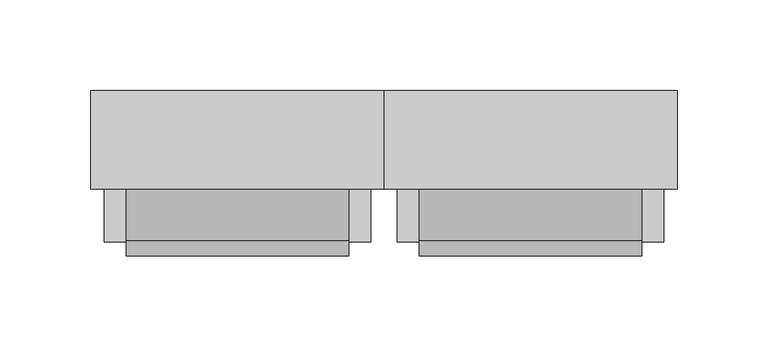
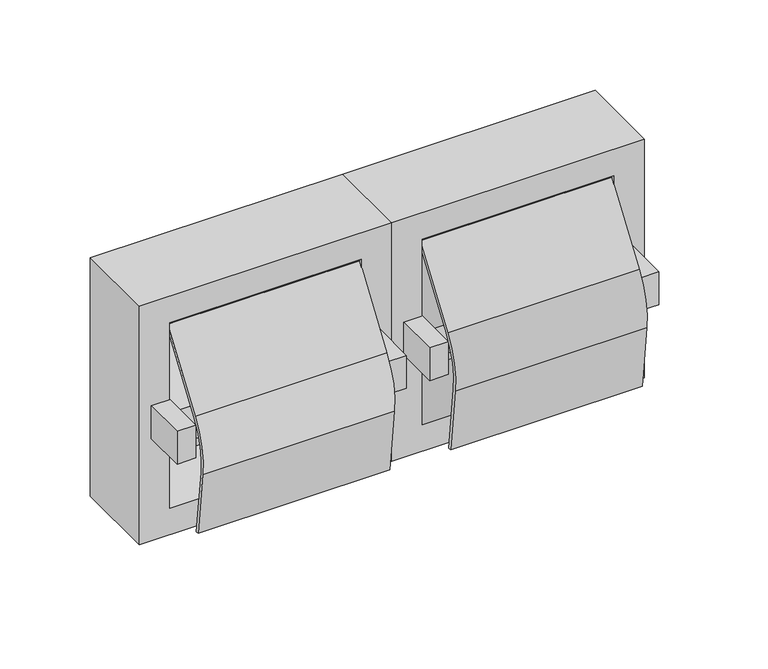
"""IFC4 building model written with IfcOpenShell, lengths in millimetres: proxy geometry, Toilet Roll Dispenser_Metlam_Double_Surface Mounted_Hooded : 322w x 91d x 161h (ML263SM_S)."""

import ifcopenshell
import ifcopenshell.guid

model = None  # the IFC model being written
_history = None  # IfcOwnerHistory: only IFC2X3 demands one
_inside = {}  # id of a spatial element -> (the spatial element, [elements in it])
_under = {}  # id of a project, library or spatial element -> (it, [spatial elements below it])
_declared = {}  # id of a project -> (the project, [libraries it declares])
_typed = {}  # id of a type object -> (the type object, [elements of that type])
_made_of = {}  # id of a material, layer set ... -> (it, [elements and type objects made of it])


def new_model(schema):
    """Start an empty IFC model of exactly this schema.

    Asked for "IFC4X3", IfcOpenShell would pick the latest addendum, in which some entities
    have other attributes; the version numbers below select the first issue.
    IFC2X3 requires an IfcOwnerHistory on every rooted entity: one is made here for all.
    """
    global model, _history
    if schema == "IFC4X3":
        model = ifcopenshell.file(schema_version=(4, 3, 0, 0))
    else:
        model = ifcopenshell.file(schema=schema)
    _inside.clear()
    _under.clear()
    _declared.clear()
    _typed.clear()
    _made_of.clear()
    _history = None
    if model.schema == "IFC2X3":
        org = make("IfcOrganization", Name="unknown")
        user = make(
            "IfcPersonAndOrganization",
            ThePerson=make("IfcPerson", FamilyName="unknown"),
            TheOrganization=org,
        )
        app = make(
            "IfcApplication",
            ApplicationDeveloper=org,
            Version="unknown",
            ApplicationFullName="unknown",
            ApplicationIdentifier="unknown",
        )
        _history = make(
            "IfcOwnerHistory",
            OwningUser=user,
            OwningApplication=app,
            ChangeAction="ADDED",
            CreationDate=0,
        )
    return model


def make(cls, **values):
    """One entity of the class cls with the attributes given. An attribute that is None is left unset."""
    return model.create_entity(
        cls, **{name: value for name, value in values.items() if value is not None}
    )


def rooted(cls, **values):
    """An entity with a GlobalId (a new one), such as an element, a storey or a relation."""
    return make(cls, GlobalId=ifcopenshell.guid.new(), OwnerHistory=_history, **values)


def si_unit(unit_type, name, prefix=None):
    """IfcSIUnit, for example si_unit("LENGTHUNIT", "METRE", prefix="MILLI")."""
    return make("IfcSIUnit", UnitType=unit_type, Prefix=prefix, Name=name)


def assignment(units):
    """IfcUnitAssignment: the units of a project."""
    return None if units is None else make("IfcUnitAssignment", Units=units)


def point(xyz):
    """IfcCartesianPoint."""
    return None if xyz is None else make("IfcCartesianPoint", Coordinates=xyz)


def direction(xyz):
    """IfcDirection."""
    return None if xyz is None else make("IfcDirection", DirectionRatios=xyz)


def frame(location, z_axis=None, x_axis=None):
    """IfcAxis2Placement3D, a coordinate frame: its origin and axes. An axis left out is left unset."""
    return make(
        "IfcAxis2Placement3D",
        Location=point(location),
        Axis=direction(z_axis),
        RefDirection=direction(x_axis),
    )


def frame_2d(location, x_axis=None):
    """IfcAxis2Placement2D, a coordinate frame in the plane: its origin and x axis."""
    return make(
        "IfcAxis2Placement2D", Location=point(location), RefDirection=direction(x_axis)
    )


def origin():
    """The frame at (0, 0, 0) with its axes left unset."""
    return frame((0.0, 0.0, 0.0))


def place(relative_to, where):
    """IfcLocalPlacement: puts the frame where relative to a parent placement (None: the world)."""
    return make(
        "IfcLocalPlacement", PlacementRelTo=relative_to, RelativePlacement=where
    )


def context(
    kind, dimensions, precision=None, world=None, true_north=None, identifier=None
):
    """IfcGeometricRepresentationContext, for example the 3D "Model" context."""
    return make(
        "IfcGeometricRepresentationContext",
        ContextIdentifier=identifier,
        ContextType=kind,
        CoordinateSpaceDimension=dimensions,
        Precision=precision,
        WorldCoordinateSystem=world,
        TrueNorth=true_north,
    )


def project(units=None, contexts=None):
    """IfcProject with its units and contexts."""
    return rooted(
        "IfcProject",
        Name="project",
        RepresentationContexts=contexts,
        UnitsInContext=assignment(units),
    )


def spatial(cls, under=None, at=None, **own):
    """A site, building, storey or space (cls), placed at a placement, below another one or the project."""
    s = rooted(cls, ObjectPlacement=at, **own)
    if under is not None:
        _under.setdefault(under.id(), (under, []))[1].append(s)
    return s


def polyline(points):
    """IfcPolyline through the points."""
    return make("IfcPolyline", Points=[point(p) for p in points])


def circle_curve(where, radius):
    """IfcCircle in the frame where."""
    return make("IfcCircle", Position=where, Radius=radius)


def trimmed(basis, trim1, trim2, sense, master):
    """IfcTrimmedCurve: the piece of a basis curve between two trims."""
    return make(
        "IfcTrimmedCurve",
        BasisCurve=basis,
        Trim1=trim1,
        Trim2=trim2,
        SenseAgreement=sense,
        MasterRepresentation=master,
    )


def segment(curve, same_sense, transition):
    """IfcCompositeCurveSegment."""
    return make(
        "IfcCompositeCurveSegment",
        Transition=transition,
        SameSense=same_sense,
        ParentCurve=curve,
    )


def composite_curve(segments, self_intersect=None):
    """IfcCompositeCurve: segments joined end to end."""
    return make("IfcCompositeCurve", Segments=segments, SelfIntersect=self_intersect)


def outline(outer, holes=None, kind="AREA"):
    """IfcArbitraryClosedProfileDef: a profile drawn as a closed curve; with holes, ...WithVoids."""
    if holes is None:
        return make("IfcArbitraryClosedProfileDef", ProfileType=kind, OuterCurve=outer)
    return make(
        "IfcArbitraryProfileDefWithVoids",
        ProfileType=kind,
        OuterCurve=outer,
        InnerCurves=holes,
    )


def extrude(swept, where, along, depth):
    """IfcExtrudedAreaSolid: the profile swept, set in the frame where, extruded along a direction by depth."""
    return make(
        "IfcExtrudedAreaSolid",
        SweptArea=swept,
        Position=where,
        ExtrudedDirection=direction(along),
        Depth=depth,
    )


def shape(context_of_items, identifier, shape_type, items):
    """IfcShapeRepresentation: the items that make up one representation, for example the "Body"."""
    return make(
        "IfcShapeRepresentation",
        ContextOfItems=context_of_items,
        RepresentationIdentifier=identifier,
        RepresentationType=shape_type,
        Items=items,
    )


def source(mapping_origin, context_of_items, identifier, shape_type, items):
    """IfcRepresentationMap: a shape defined once, which mapped items show again and again."""
    return make(
        "IfcRepresentationMap",
        MappingOrigin=mapping_origin,
        MappedRepresentation=shape(context_of_items, identifier, shape_type, items),
    )


def transform(
    local_origin,
    x_axis=None,
    y_axis=None,
    z_axis=None,
    scale=None,
    scale2=None,
    scale3=None,
    uniform=True,
):
    """IfcCartesianTransformationOperator3D, or its non-uniform kind. x_axis, y_axis, z_axis: its Axis1, 2, 3."""
    if uniform:
        return make(
            "IfcCartesianTransformationOperator3D",
            Axis1=direction(x_axis),
            Axis2=direction(y_axis),
            LocalOrigin=point(local_origin),
            Scale=scale,
            Axis3=direction(z_axis),
        )
    return make(
        "IfcCartesianTransformationOperator3DnonUniform",
        Axis1=direction(x_axis),
        Axis2=direction(y_axis),
        LocalOrigin=point(local_origin),
        Scale=scale,
        Axis3=direction(z_axis),
        Scale2=scale2,
        Scale3=scale3,
    )


def mapped(mapping_source, mapping_target):
    """IfcMappedItem: shows the shape of a source again, moved by a transform."""
    return make(
        "IfcMappedItem", MappingSource=mapping_source, MappingTarget=mapping_target
    )


def made_of(thing, what):
    """Note that an element or type object is made of a material, layer set ...; save() writes the relation."""
    if what is not None:
        _made_of.setdefault(what.id(), (what, []))[1].append(thing)
    return thing


def element(
    cls,
    number,
    at=None,
    inside=None,
    cuts=None,
    type_object=None,
    material=None,
    context=None,
    identifier="Body",
    shape_type=None,
    held_by="IfcProductDefinitionShape",
    body=None,
    shapes=None,
    **own,
):
    """One element of the class cls, such as IfcWall. Its Tag is "e" and its number.

    at: its placement. inside: the storey or other place that contains it. cuts: it is an
    opening in that element (IfcRelVoidsElement). A single representation is given by context,
    identifier, shape_type and body (its items); several are given by shapes. held_by: the class
    of the entity that holds the representations. save() writes the other relations.
    """
    e = rooted(cls, Tag="e%d" % number, ObjectPlacement=at, **own)
    if body is not None:
        shapes = [shape(context, identifier, shape_type, body)]
    if shapes is not None:
        e.Representation = make(held_by, Representations=shapes)
    if inside is not None:
        _inside.setdefault(inside.id(), (inside, []))[1].append(e)
    if cuts is not None:
        rooted(
            "IfcRelVoidsElement", RelatingBuildingElement=cuts, RelatedOpeningElement=e
        )
    if type_object is not None:
        _typed.setdefault(type_object.id(), (type_object, []))[1].append(e)
    return made_of(e, material)


def aggregate(whole, parts):
    """IfcRelAggregates: a whole, such as a stair, and the parts it consists of."""
    return rooted("IfcRelAggregates", RelatingObject=whole, RelatedObjects=parts)


def save(model, path):
    """Write the relations noted so far, then the file.

    IfcRelAggregates (storeys below a building ...), IfcRelContainedInSpatialStructure (elements
    in a storey), IfcRelDefinesByType, IfcRelAssociatesMaterial and IfcRelDeclares: one each for
    every whole, place, type object, material and project.
    """
    for whole, parts in _under.values():
        aggregate(whole, parts)
    for where, things in _inside.values():
        rooted(
            "IfcRelContainedInSpatialStructure",
            RelatedElements=things,
            RelatingStructure=where,
        )
    for kind, things in _typed.values():
        rooted("IfcRelDefinesByType", RelatedObjects=things, RelatingType=kind)
    for what, things in _made_of.values():
        rooted("IfcRelAssociatesMaterial", RelatedObjects=things, RelatingMaterial=what)
    for by, libraries in _declared.values():
        rooted("IfcRelDeclares", RelatingContext=by, RelatedDefinitions=libraries)
    model.write(path)


def plane_surface(at):
    """IfcPlane: the flat surface through the origin of the frame at, square to its z axis."""
    return make("IfcPlane", Position=at)


def cylinder_surface(at, radius):
    """IfcCylindricalSurface: all points at the distance radius from the z axis of the frame at."""
    return make("IfcCylindricalSurface", Position=at, Radius=radius)


def revolved_surface(curve, axis_point, axis_direction):
    """IfcSurfaceOfRevolution: the curve turned about the line through axis_point along axis_direction."""
    return make(
        "IfcSurfaceOfRevolution",
        SweptCurve=make("IfcArbitraryOpenProfileDef", ProfileType="CURVE", Curve=curve),
        AxisPosition=make("IfcAxis1Placement", Location=point(axis_point), Axis=direction(axis_direction)),
    )


def advanced_brep(points, edges, surfaces, faces):
    """IfcAdvancedBrep: a solid bounded by faces that lie on surfaces and meet in shared edges.

    An edge is (start, end): straight between two places in points (the first is 0);
    or (start, end, curve); or (start, end, curve, False) where it runs against its curve.
    A face is (place in surfaces, loops), or (place, loops, False) where it looks against
    its surface's normal. A loop lists edges by number (the first is 1), with a minus sign
    where the edge is run from its end to its start. The first loop is the outer one.
    """
    corners = [point(p) for p in points]
    vertices = [make("IfcVertexPoint", VertexGeometry=c) for c in corners]
    made = []
    for start, end, *more in edges:
        made.append(
            make(
                "IfcEdgeCurve",
                EdgeStart=vertices[start],
                EdgeEnd=vertices[end],
                EdgeGeometry=more[0] if more else make("IfcPolyline", Points=[corners[start], corners[end]]),
                SameSense=more[1] if len(more) > 1 else True,
            )
        )
    hull = []
    for where, loops, *sense in faces:
        bounds = []
        for j, loop in enumerate(loops):
            ring = [make("IfcOrientedEdge", EdgeElement=made[abs(k) - 1], Orientation=k > 0) for k in loop]
            bounds.append(
                make(
                    "IfcFaceOuterBound" if j == 0 else "IfcFaceBound",
                    Bound=make("IfcEdgeLoop", EdgeList=ring),
                    Orientation=True,
                )
            )
        hull.append(make("IfcAdvancedFace", Bounds=bounds, FaceSurface=surfaces[where], SameSense=sense[0] if sense else True))
    return make("IfcAdvancedBrep", Outer=make("IfcClosedShell", CfsFaces=hull))


def specialty_equipment_62537d06(model_context):
    return source(origin(), model_context, "Body", "SolidModel", [
        advanced_brep(
        [(0.0, -54.0, 665.5), (0.0, -54.0, 504.5), (161.0, -54.0, 504.5), (161.0, -54.0, 665.5), (19.3853536, -54.0, 522.5175691), (19.3853536, -54.0, 647.4824309), (141.6146464, -54.0, 647.4824309), (141.6146464, -54.0, 522.5175691), (0.0, 0.0, 665.5), (161.0, 0.0, 665.5), (161.0, 0.0, 504.5), (0.0, 0.0, 504.5)],
        [
            (0, 1),
            (1, 2),
            (2, 3),
            (3, 0),
            (4, 5),
            (5, 6),
            (6, 7),
            (7, 4),
            (8, 9),
            (9, 10),
            (10, 11),
            (11, 8),
            (3, 9),
            (8, 0),
            (2, 10),
            (1, 11),
            (4, 5, circle_curve(frame((19.3853536, -67.8544514, 585.0), z_axis=(1.0, 0.0, 0.0), x_axis=(0.0, 1.0, 0.0)), 64.0)),
            (6, 7, circle_curve(frame((141.6146464, -67.8544514, 585.0), z_axis=(-1.0, 0.0, 0.0), x_axis=(0.0, 1.0, 0.0)), 64.0)),
        ],
        [
            plane_surface(frame((0.0, -54.0, 665.5), z_axis=(0.0, -1.0, 0.0), x_axis=(0.0, 0.0, -1.0))),
            plane_surface(frame((0.0, 0.0, 665.5), z_axis=(0.0, 1.0, 0.0), x_axis=(0.0, 0.0, 1.0))),
            plane_surface(frame((161.0, -54.0, 665.5), z_axis=(0.0, 0.0, 1.0), x_axis=(0.0, 1.0, 0.0))),
            plane_surface(frame((161.0, -54.0, 504.5), z_axis=(1.0, 0.0, 0.0), x_axis=(0.0, 1.0, 0.0))),
            plane_surface(frame((0.0, -54.0, 504.5), z_axis=(0.0, 0.0, -1.0), x_axis=(0.0, 1.0, 0.0))),
            plane_surface(frame((0.0, -54.0, 665.5), z_axis=(-1.0, 0.0, 0.0), x_axis=(0.0, 1.0, 0.0))),
            plane_surface(frame((19.3853536, -3.8544514, 585.0), z_axis=(1.0, 0.0, 0.0), x_axis=(0.0, 0.0, -1.0))),
            plane_surface(frame((141.6146464, -3.8544514, 585.0), z_axis=(-1.0, 0.0, 0.0), x_axis=(0.0, 0.0, 1.0))),
            revolved_surface(polyline([(19.385353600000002, -3.854451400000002, 585.0), (141.6146464, -3.854451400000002, 585.0)]), (141.6146464, -67.8544514, 585.0), (-1.0, 0.0, 0.0)),
        ],
        [
            (0, [[1, 2, 3, 4], [5, 6, 7, 8]]),
            (1, [[9, 10, 11, 12]]),
            (2, [[-4, 13, -9, 14]]),
            (3, [[-3, 15, -10, -13]]),
            (4, [[-2, 16, -11, -15]]),
            (5, [[-1, -14, -12, -16]]),
            (6, [[17, -5]]),
            (7, [[18, -7]]),
            (8, [[-17, -8, -18, -6]]),
        ],
    ),
        advanced_brep(
        [(0.0, -54.0, 665.5), (-161.0, -54.0, 665.5), (-161.0, -54.0, 504.5), (0.0, -54.0, 504.5), (-19.3853536, -54.0, 647.4824309), (-19.3853536, -54.0, 522.5175691), (-141.6146464, -54.0, 522.5175691), (-141.6146464, -54.0, 647.4824309), (0.0, 0.0, 665.5), (0.0, 0.0, 504.5), (-161.0, 0.0, 504.5), (-161.0, 0.0, 665.5)],
        [
            (0, 1),
            (1, 2),
            (2, 3),
            (3, 0),
            (4, 5),
            (5, 6),
            (6, 7),
            (7, 4),
            (8, 9),
            (9, 10),
            (10, 11),
            (11, 8),
            (0, 8),
            (11, 1),
            (10, 2),
            (9, 3),
            (4, 5, circle_curve(frame((-19.3853536, -67.8544514, 585.0), z_axis=(-1.0, 0.0, 0.0), x_axis=(0.0, 1.0, 0.0)), 64.0)),
            (6, 7, circle_curve(frame((-141.6146464, -67.8544514, 585.0), z_axis=(1.0, 0.0, 0.0), x_axis=(0.0, 1.0, 0.0)), 64.0)),
        ],
        [
            plane_surface(frame((-161.0, -54.0, 665.5), z_axis=(0.0, -1.0, 0.0), x_axis=(-1.0, 0.0, 0.0))),
            plane_surface(frame((-161.0, 0.0, 665.5), z_axis=(0.0, 1.0, 0.0), x_axis=(1.0, 0.0, 0.0))),
            plane_surface(frame((0.0, -54.0, 665.5), z_axis=(0.0, 0.0, 1.0), x_axis=(0.0, 1.0, 0.0))),
            plane_surface(frame((-161.0, -54.0, 665.5), z_axis=(-1.0, 0.0, 0.0), x_axis=(0.0, 1.0, 0.0))),
            plane_surface(frame((-161.0, -54.0, 504.5), z_axis=(0.0, 0.0, -1.0), x_axis=(0.0, 1.0, 0.0))),
            plane_surface(frame((0.0, -54.0, 504.5), z_axis=(1.0, 0.0, 0.0), x_axis=(0.0, 1.0, 0.0))),
            plane_surface(frame((-19.3853536, -54.0, 522.5175691), z_axis=(-1.0, 0.0, 0.0), x_axis=(0.0, 0.0, -1.0))),
            plane_surface(frame((-141.6146464, -54.0, 522.5175691), z_axis=(1.0, 0.0, 0.0), x_axis=(0.0, 0.0, 1.0))),
            revolved_surface(polyline([(-19.385353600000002, -3.854451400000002, 585.0), (-141.6146464, -3.854451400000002, 585.0)]), (-141.6146464, -67.8544514, 585.0), (1.0, 0.0, 0.0)),
        ],
        [
            (0, [[1, 2, 3, 4], [5, 6, 7, 8]]),
            (1, [[9, 10, 11, 12]]),
            (2, [[-1, 13, -12, 14]]),
            (3, [[-2, -14, -11, 15]]),
            (4, [[-3, -15, -10, 16]]),
            (5, [[-4, -16, -9, -13]]),
            (6, [[17, -5]]),
            (7, [[18, -7]]),
            (8, [[-17, -8, -18, -6]]),
        ],
    ),
        extrude(outline(composite_curve([segment(trimmed(circle_curve(frame_2d((-41.0, 573.2090239)), 48.0), [point((-80.5531086, 600.4037219))], [point((-88.6422153, 567.3592954))], True, "CARTESIAN"), True, "CONTINUOUS"), segment(polyline([(-88.6422153, 567.3592954), (-83.3797555, 524.5), (-85.3947752, 524.5), (-90.6273076, 567.1155567)]), True, "CONTINUOUS"), segment(trimmed(circle_curve(frame_2d((-41.0, 573.2090239)), 50.0), [point((-90.6273076, 567.1155567))], [point((-82.2011548, 601.5368343))], False, "CARTESIAN"), True, "CONTINUOUS"), segment(polyline([(-82.2011548, 601.5368343), (-52.0205739, 645.4327363), (-50.3725277, 644.2996238), (-80.5531086, 600.4037219)]), True, "CONTINUOUS")], self_intersect=False)), frame((19.3853536, 0.0, 0.0), z_axis=(1.0, 0.0, 0.0), x_axis=(0.0, 1.0, 0.0)), (0.0, 0.0, 1.0), 122.2292927),
        extrude(outline(polyline([(153.6248355, -54.0), (153.6248355, -83.0), (141.6146464, -83.0), (141.6146464, -54.0), (153.6248355, -54.0)])), frame((0.0, 0.0, 574.0), z_axis=(0.0, 0.0, 1.0), x_axis=(1.0, 0.0, 0.0)), (0.0, 0.0, 1.0), 22.0),
        extrude(outline(polyline([(7.3751645, -83.0), (7.3751645, -54.0), (19.3853536, -54.0), (19.3853536, -83.0), (7.3751645, -83.0)])), frame((0.0, 0.0, 574.0), z_axis=(0.0, 0.0, 1.0), x_axis=(1.0, 0.0, 0.0)), (0.0, 0.0, 1.0), 22.0),
        advanced_brep(
        [(141.6146464, -69.3201367, 585.0), (141.6146464, -80.3201367, 585.0), (141.6146464, -58.3201367, 585.0), (80.5, -80.3201367, 585.0), (80.5, -58.3201367, 585.0), (80.5, -78.8201367, 585.0), (80.5, -59.8201367, 585.0), (19.3853536, -78.8201367, 585.0), (19.3853536, -59.8201367, 585.0), (19.3853536, -69.3201367, 585.0)],
        [
            (0, 1),
            (1, 2, circle_curve(frame((141.6146464, -69.3201367, 585.0), z_axis=(1.0, 0.0, 0.0), x_axis=(0.0, -1.0, 0.0)), 11.0)),
            (2, 0),
            (2, 1, circle_curve(frame((141.6146464, -69.3201367, 585.0), z_axis=(1.0, 0.0, 0.0), x_axis=(0.0, -1.0, 0.0)), 11.0)),
            (1, 3),
            (3, 4, circle_curve(frame((80.5, -69.3201367, 585.0), z_axis=(1.0, 0.0, 0.0), x_axis=(0.0, -1.0, 0.0)), 11.0)),
            (4, 2),
            (4, 3, circle_curve(frame((80.5, -69.3201367, 585.0), z_axis=(1.0, 0.0, 0.0), x_axis=(0.0, -1.0, 0.0)), 11.0)),
            (3, 5),
            (5, 6, circle_curve(frame((80.5, -69.3201367, 585.0), z_axis=(1.0, 0.0, 0.0), x_axis=(0.0, -1.0, 0.0)), 9.5)),
            (6, 4),
            (6, 5, circle_curve(frame((80.5, -69.3201367, 585.0), z_axis=(1.0, 0.0, 0.0), x_axis=(0.0, -1.0, 0.0)), 9.5)),
            (5, 7),
            (7, 8, circle_curve(frame((19.3853536, -69.3201367, 585.0), z_axis=(1.0, 0.0, 0.0), x_axis=(0.0, -1.0, 0.0)), 9.5)),
            (8, 6),
            (8, 7, circle_curve(frame((19.3853536, -69.3201367, 585.0), z_axis=(1.0, 0.0, 0.0), x_axis=(0.0, -1.0, 0.0)), 9.5)),
            (7, 9),
            (9, 8),
        ],
        [
            plane_surface(frame((141.6146464, -69.3201367, 585.0), z_axis=(1.0, 0.0, 0.0), x_axis=(0.0, -1.0, 0.0))),
            cylinder_surface(frame((98.0, -69.3201367, 585.0), z_axis=(1.0, 0.0, 0.0), x_axis=(0.0, -1.0, 0.0)), 11.0),
            plane_surface(frame((80.5, -69.3201367, 585.0), z_axis=(-1.0, 0.0, 0.0), x_axis=(0.0, -1.0, 0.0))),
            cylinder_surface(frame((98.0, -69.3201367, 585.0), z_axis=(1.0, 0.0, 0.0), x_axis=(0.0, -1.0, 0.0)), 9.5),
            plane_surface(frame((19.3853536, -69.3201367, 585.0), z_axis=(-1.0, 0.0, 0.0), x_axis=(0.0, -1.0, 0.0))),
        ],
        [
            (0, [[1, 2, 3]]),
            (0, [[-3, 4, -1]]),
            (1, [[-2, 5, 6, 7]]),
            (1, [[-4, -7, 8, -5]]),
            (2, [[-6, 9, 10, 11]]),
            (2, [[-8, -11, 12, -9]]),
            (3, [[-10, 13, 14, 15]]),
            (3, [[-12, -15, 16, -13]]),
            (4, [[-14, 17, 18]]),
            (4, [[-16, -18, -17]]),
        ],
    ),
        extrude(outline(composite_curve([segment(trimmed(circle_curve(frame_2d((-41.0, 573.2090239)), 48.0), [point((-80.5531086, 600.4037219))], [point((-88.6422153, 567.3592954))], True, "CARTESIAN"), True, "CONTINUOUS"), segment(polyline([(-88.6422153, 567.3592954), (-83.3797555, 524.5), (-85.3947752, 524.5), (-90.6273076, 567.1155567)]), True, "CONTINUOUS"), segment(trimmed(circle_curve(frame_2d((-41.0, 573.2090239)), 50.0), [point((-90.6273076, 567.1155567))], [point((-82.2011548, 601.5368343))], False, "CARTESIAN"), True, "CONTINUOUS"), segment(polyline([(-82.2011548, 601.5368343), (-52.0205739, 645.4327363), (-50.3725277, 644.2996238), (-80.5531086, 600.4037219)]), True, "CONTINUOUS")], self_intersect=False)), frame((-141.6146464, 0.0, 0.0), z_axis=(1.0, 0.0, 0.0), x_axis=(0.0, 1.0, 0.0)), (0.0, 0.0, 1.0), 122.2292927),
        extrude(outline(polyline([(-153.6248355, -83.0), (-153.6248355, -54.0), (-141.6146464, -54.0), (-141.6146464, -83.0), (-153.6248355, -83.0)])), frame((0.0, 0.0, 574.0), z_axis=(0.0, 0.0, 1.0), x_axis=(1.0, 0.0, 0.0)), (0.0, 0.0, 1.0), 22.0),
        extrude(outline(polyline([(-7.3751645, -54.0), (-7.3751645, -83.0), (-19.3853536, -83.0), (-19.3853536, -54.0), (-7.3751645, -54.0)])), frame((0.0, 0.0, 574.0), z_axis=(0.0, 0.0, 1.0), x_axis=(1.0, 0.0, 0.0)), (0.0, 0.0, 1.0), 22.0),
        advanced_brep(
        [(-141.6146464, -58.3201367, 585.0), (-141.6146464, -80.3201367, 585.0), (-141.6146464, -69.3201367, 585.0), (-80.5, -58.3201367, 585.0), (-80.5, -80.3201367, 585.0), (-80.5, -59.8201367, 585.0), (-80.5, -78.8201367, 585.0), (-19.3853536, -59.8201367, 585.0), (-19.3853536, -78.8201367, 585.0), (-19.3853536, -69.3201367, 585.0)],
        [
            (0, 1, circle_curve(frame((-141.6146464, -69.3201367, 585.0), z_axis=(-1.0, 0.0, 0.0), x_axis=(0.0, -1.0, 0.0)), 11.0)),
            (1, 2),
            (2, 0),
            (1, 0, circle_curve(frame((-141.6146464, -69.3201367, 585.0), z_axis=(-1.0, 0.0, 0.0), x_axis=(0.0, -1.0, 0.0)), 11.0)),
            (3, 4, circle_curve(frame((-80.5, -69.3201367, 585.0), z_axis=(-1.0, 0.0, 0.0), x_axis=(0.0, -1.0, 0.0)), 11.0)),
            (4, 1),
            (0, 3),
            (4, 3, circle_curve(frame((-80.5, -69.3201367, 585.0), z_axis=(-1.0, 0.0, 0.0), x_axis=(0.0, -1.0, 0.0)), 11.0)),
            (5, 6, circle_curve(frame((-80.5, -69.3201367, 585.0), z_axis=(-1.0, 0.0, 0.0), x_axis=(0.0, -1.0, 0.0)), 9.5)),
            (6, 4),
            (3, 5),
            (6, 5, circle_curve(frame((-80.5, -69.3201367, 585.0), z_axis=(-1.0, 0.0, 0.0), x_axis=(0.0, -1.0, 0.0)), 9.5)),
            (7, 8, circle_curve(frame((-19.3853536, -69.3201367, 585.0), z_axis=(-1.0, 0.0, 0.0), x_axis=(0.0, -1.0, 0.0)), 9.5)),
            (8, 6),
            (5, 7),
            (8, 7, circle_curve(frame((-19.3853536, -69.3201367, 585.0), z_axis=(-1.0, 0.0, 0.0), x_axis=(0.0, -1.0, 0.0)), 9.5)),
            (9, 8),
            (7, 9),
        ],
        [
            plane_surface(frame((-141.6146464, -69.3201367, 585.0), z_axis=(-1.0, 0.0, 0.0), x_axis=(0.0, -1.0, 0.0))),
            cylinder_surface(frame((-98.0, -69.3201367, 585.0), z_axis=(1.0, 0.0, 0.0), x_axis=(0.0, -1.0, 0.0)), 11.0),
            plane_surface(frame((-80.5, -69.3201367, 585.0), z_axis=(1.0, 0.0, 0.0), x_axis=(0.0, -1.0, 0.0))),
            cylinder_surface(frame((-98.0, -69.3201367, 585.0), z_axis=(1.0, 0.0, 0.0), x_axis=(0.0, -1.0, 0.0)), 9.5),
            plane_surface(frame((-19.3853536, -69.3201367, 585.0), z_axis=(1.0, 0.0, 0.0), x_axis=(0.0, -1.0, 0.0))),
        ],
        [
            (0, [[1, 2, 3]]),
            (0, [[4, -3, -2]]),
            (1, [[5, 6, -1, 7]]),
            (1, [[8, -7, -4, -6]]),
            (2, [[9, 10, -5, 11]]),
            (2, [[12, -11, -8, -10]]),
            (3, [[13, 14, -9, 15]]),
            (3, [[16, -15, -12, -14]]),
            (4, [[17, -13, 18]]),
            (4, [[-18, -16, -17]]),
        ],
    ),
    ])


if __name__ == "__main__":
    model = new_model("IFC4")
    model_context = context("Model", 3, world=origin())
    ifc_project = project(units=[si_unit("LENGTHUNIT", "METRE", prefix="MILLI")], contexts=[model_context])
    site = spatial("IfcSite", under=ifc_project)
    building = spatial("IfcBuilding", under=site)
    placement = place(None, origin())
    specialty_equipment_shape = specialty_equipment_62537d06(model_context)
    element("IfcBuildingElementProxy", 1, Name="Toilet Roll Dispenser_Metlam_Double_Surface Mounted_Hooded : 322w x 91d x 161h (ML263SM_S)", ObjectType="Toilet Roll Dispenser_Metlam_Double_Surface Mounted_Hooded : 322w x 91d x 161h (ML263SM_S)", at=placement, inside=building, context=model_context, shape_type="MappedRepresentation", body=[
        mapped(specialty_equipment_shape, transform((0.0, 0.0, 0.0), x_axis=(1.0, 0.0, 0.0), y_axis=(0.0, 1.0, 0.0), z_axis=(0.0, 0.0, 1.0))),
    ])
    save(model, "model.ifc")
